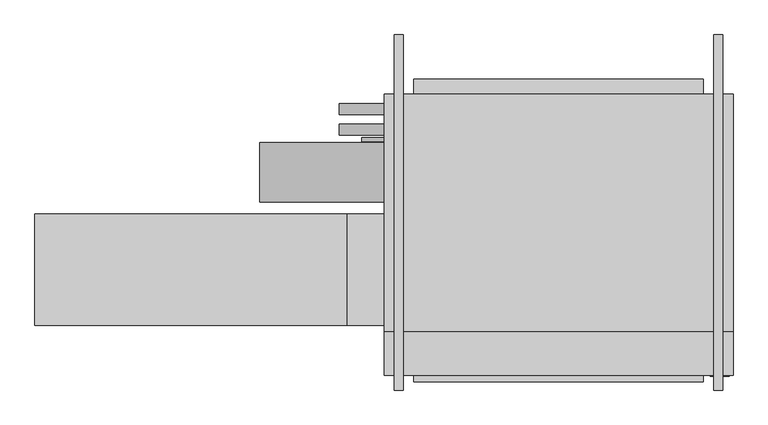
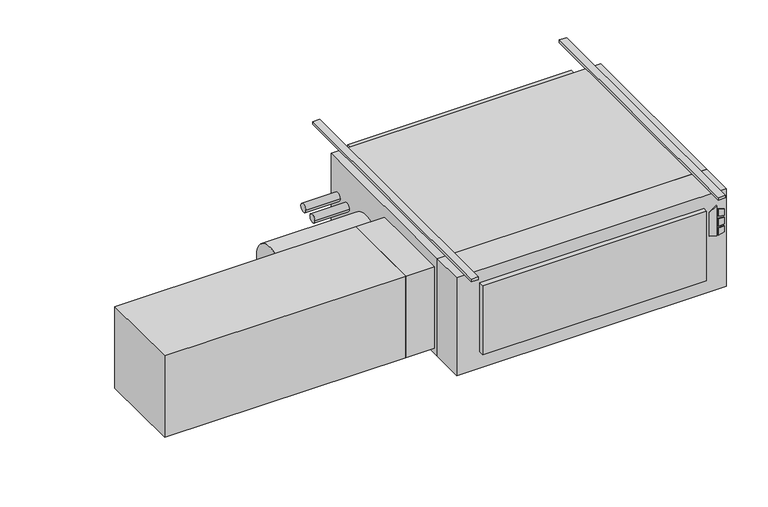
"""IFC4 building model written with IfcOpenShell, lengths in millimetres: proxy geometry."""

from ifc_helpers import new_model, si_unit, point, frame, frame_2d, origin, origin_with_axes, place, context, project, spatial, polyline, circle_curve, trimmed, segment, composite_curve, outline, extrude, source, transform, mapped, element, save


def mechanical_equipment_bcd7ff5d(model_context):
    return source(origin(), model_context, "Body", "SweptSolid", [
        extrude(outline(polyline([(-193.2519297, 671.5868862), (-203.2, 703.7602728), (-61.0290756, 703.7602728), (-84.0510817, 671.5868862), (-193.2519297, 671.5868862)])), frame((0.0, -797.052, 0.0), z_axis=(0.0, 1.0, 0.0), x_axis=(0.0, 0.0, 1.0)), (0.0, 0.0, 1.0), 3.175),
        extrude(outline(polyline([(-114.2526443, 710.5186058), (-117.4550368, 736.6), (-88.2261958, 736.6), (-80.1617807, 710.5186058), (-114.2526443, 710.5186058)])), frame((0.0, -797.052, 0.0), z_axis=(0.0, 1.0, 0.0), x_axis=(0.0, 0.0, 1.0)), (0.0, 0.0, 1.0), 3.175),
        extrude(outline(polyline([(-166.1161712, 736.6), (-169.7816721, 710.5186058), (-203.2, 710.5186058), (-194.5657628, 736.6), (-166.1161712, 736.6)])), frame((0.0, -797.052, 0.0), z_axis=(0.0, 1.0, 0.0), x_axis=(0.0, 0.0, 1.0)), (0.0, 0.0, 1.0), 3.175),
        extrude(outline(polyline([(-126.8010097, 736.6), (-124.5191834, 710.5186058), (-160.4567319, 710.5186058), (-157.7154669, 736.6), (-126.8010097, 736.6)])), frame((0.0, -797.052, 0.0), z_axis=(0.0, 1.0, 0.0), x_axis=(0.0, 0.0, 1.0)), (0.0, 0.0, 1.0), 3.175),
        extrude(outline(polyline([(749.3, -793.877), (-444.5, -793.877), (-444.5, -644.525), (749.3, -644.525), (749.3, -793.877)])), frame((0.0, 0.0, -457.2), z_axis=(0.0, 0.0, 1.0), x_axis=(1.0, 0.0, 0.0)), (0.0, 0.0, 1.0), 457.2),
        extrude(outline(polyline([(647.7, -816.229), (-342.9, -816.229), (-342.9, -793.877), (647.7, -793.877), (647.7, -816.229)])), frame((0.0, 0.0, -381.0), z_axis=(0.0, 0.0, 1.0), x_axis=(1.0, 0.0, 0.0)), (0.0, 0.0, 1.0), 323.85),
        extrude(outline(polyline([(-1638.3, -622.3), (-1638.3, -241.3), (-571.5, -241.3), (-571.5, -622.3), (-1638.3, -622.3)])), frame((0.0, 0.0, -431.8), z_axis=(0.0, 0.0, 1.0), x_axis=(1.0, 0.0, 0.0)), (0.0, 0.0, 1.0), 381.0),
        extrude(outline(polyline([(-444.5, -241.3), (-444.5, -622.3), (-571.5, -622.3), (-571.5, -241.3), (-444.5, -241.3)])), frame((0.0, 0.0, -431.8), z_axis=(0.0, 0.0, 1.0), x_axis=(1.0, 0.0, 0.0)), (0.0, 0.0, 1.0), 381.0),
        extrude(outline(composite_curve([segment(trimmed(circle_curve(frame_2d((-98.4896516, -228.6360165)), 101.6), [point((-200.0896516, -228.6360165))], [point((3.1103484, -228.6360165))], False, "CARTESIAN"), True, "CONTINUOUS"), segment(trimmed(circle_curve(frame_2d((-98.4896516, -228.6360165)), 101.6), [point((3.1103484, -228.6360165))], [point((-200.0896516, -228.6360165))], False, "CARTESIAN"), True, "CONTINUOUS")], self_intersect=False)), frame((-869.95, 0.0, 0.0), z_axis=(1.0, 0.0, 0.0), x_axis=(0.0, 1.0, 0.0)), (0.0, 0.0, 1.0), 425.45),
        extrude(outline(composite_curve([segment(trimmed(circle_curve(frame_2d((47.625, -177.8)), 19.05), [point((28.575, -177.8))], [point((66.675, -177.8))], False, "CARTESIAN"), True, "CONTINUOUS"), segment(trimmed(circle_curve(frame_2d((47.625, -177.8)), 19.05), [point((66.675, -177.8))], [point((28.575, -177.8))], False, "CARTESIAN"), True, "CONTINUOUS")], self_intersect=False)), frame((-596.9, 0.0, 0.0), z_axis=(1.0, 0.0, 0.0), x_axis=(0.0, 1.0, 0.0)), (0.0, 0.0, 1.0), 152.4),
        extrude(outline(composite_curve([segment(trimmed(circle_curve(frame_2d((117.475, -171.45)), 19.05), [point((98.425, -171.45))], [point((136.525, -171.45))], False, "CARTESIAN"), True, "CONTINUOUS"), segment(trimmed(circle_curve(frame_2d((117.475, -171.45)), 19.05), [point((136.525, -171.45))], [point((98.425, -171.45))], False, "CARTESIAN"), True, "CONTINUOUS")], self_intersect=False)), frame((-596.9, 0.0, 0.0), z_axis=(1.0, 0.0, 0.0), x_axis=(0.0, 1.0, 0.0)), (0.0, 0.0, 1.0), 152.4),
        extrude(outline(composite_curve([segment(trimmed(circle_curve(frame_2d((12.7, -409.575)), 6.35), [point((6.35, -409.575))], [point((19.05, -409.575))], False, "CARTESIAN"), True, "CONTINUOUS"), segment(trimmed(circle_curve(frame_2d((12.7, -409.575)), 6.35), [point((19.05, -409.575))], [point((6.35, -409.575))], False, "CARTESIAN"), True, "CONTINUOUS")], self_intersect=False)), frame((-520.7, 0.0, 0.0), z_axis=(1.0, 0.0, 0.0), x_axis=(0.0, 1.0, 0.0)), (0.0, 0.0, 1.0), 76.2),
        extrude(outline(polyline([(749.3, 168.275), (749.3, -644.525), (-444.5, -644.525), (-444.5, 168.275), (749.3, 168.275)])), frame((0.0, 0.0, -457.2), z_axis=(0.0, 0.0, 1.0), x_axis=(1.0, 0.0, 0.0)), (0.0, 0.0, 1.0), 457.2),
        extrude(outline(polyline([(-342.9, 219.075), (647.7, 219.075), (647.7, 168.275), (-342.9, 168.275), (-342.9, 219.075)])), frame((0.0, 0.0, -381.0), z_axis=(0.0, 0.0, 1.0), x_axis=(1.0, 0.0, 0.0)), (0.0, 0.0, 1.0), 355.6),
        extrude(outline(polyline([(-377.825, 371.475), (-377.825, -844.677), (-409.575, -844.677), (-409.575, 371.475), (-377.825, 371.475)])), origin_with_axes(), (0.0, 0.0, 1.0), 12.7),
        extrude(outline(polyline([(714.375, 371.475), (714.375, -844.677), (682.625, -844.677), (682.625, 371.475), (714.375, 371.475)])), origin_with_axes(), (0.0, 0.0, 1.0), 12.7),
    ])


if __name__ == "__main__":
    model = new_model("IFC4")
    model_context = context("Model", 3, world=origin())
    ifc_project = project(units=[si_unit("LENGTHUNIT", "METRE", prefix="MILLI")], contexts=[model_context])
    site = spatial("IfcSite", under=ifc_project)
    building = spatial("IfcBuilding", under=site)
    placement = place(None, origin())
    mechanical_equipment_shape = mechanical_equipment_bcd7ff5d(model_context)
    element("IfcBuildingElementProxy", 1, Name="High_Capacity_Horizontal_Cabinet_Fan_Coil_Unit_-_HTY_-_IEC_-_2 Pipe, Elec Heat_LH Side_2022 : Size 16 - 277v/60Hz/1Ph - 8/0 Coil 10.0kW - 8\" AirIn", ObjectType="High_Capacity_Horizontal_Cabinet_Fan_Coil_Unit_-_HTY_-_IEC_-_2 Pipe, Elec Heat_LH Side_2022 : Size 16 - 277v/60Hz/1Ph - 8/0 Coil 10.0kW - 8\" AirIn", at=placement, inside=building, context=model_context, shape_type="MappedRepresentation", body=[
        mapped(mechanical_equipment_shape, transform((0.0, 0.0, 0.0), x_axis=(1.0, 0.0, 0.0), y_axis=(0.0, 1.0, 0.0), z_axis=(0.0, 0.0, 1.0))),
    ])
    save(model, "model.ifc")
